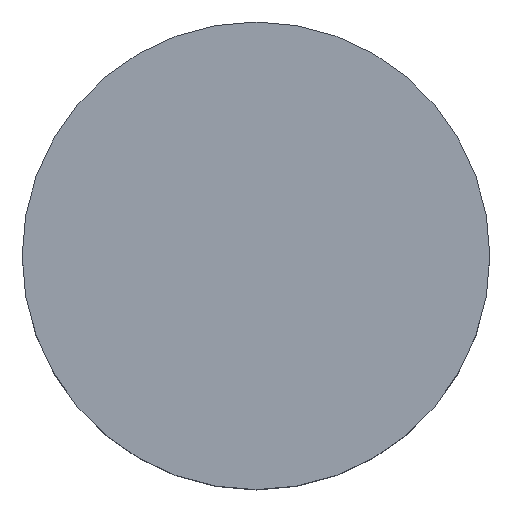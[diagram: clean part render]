
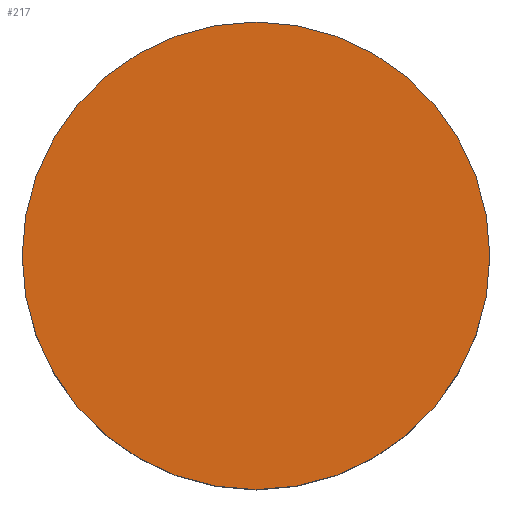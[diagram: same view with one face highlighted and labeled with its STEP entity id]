
A CAD part, top view. The second image highlights one B-rep face of the part: STEP entity #217.
In plain terms, the highlighted planar face has unit normal (0, 0, 1).
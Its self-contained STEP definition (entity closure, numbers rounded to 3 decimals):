
#217=ADVANCED_FACE('',(#281),#266,.T.);
#266=PLANE('',#798);
#281=FACE_OUTER_BOUND('',#317,.T.);
#317=EDGE_LOOP('',(#379,#380));
#379=ORIENTED_EDGE('',*,*,#633,.F.);
#380=ORIENTED_EDGE('',*,*,#634,.F.);
#571=VERTEX_POINT('',#1175);
#572=VERTEX_POINT('',#1176);
#633=EDGE_CURVE('',#571,#572,#729,.T.);
#634=EDGE_CURVE('',#572,#571,#730,.T.);
#729=CIRCLE('',#796,6.5);
#730=CIRCLE('',#797,6.5);
#796=AXIS2_PLACEMENT_3D('',#1174,#913,#914);
#797=AXIS2_PLACEMENT_3D('',#1177,#915,#916);
#798=AXIS2_PLACEMENT_3D('',#1178,#917,#918);
#913=DIRECTION('',(0.,0.,-1.));
#914=DIRECTION('',(0.,1.,0.));
#915=DIRECTION('',(0.,0.,-1.));
#916=DIRECTION('',(0.,-1.,0.));
#917=DIRECTION('',(0.,0.,1.));
#918=DIRECTION('',(0.,-1.,0.));
#1174=CARTESIAN_POINT('',(0.,0.,5.));
#1175=CARTESIAN_POINT('',(6.5,0.,5.));
#1176=CARTESIAN_POINT('',(-6.5,0.,5.));
#1177=CARTESIAN_POINT('',(0.,0.,5.));
#1178=CARTESIAN_POINT('',(0.,0.,5.));
